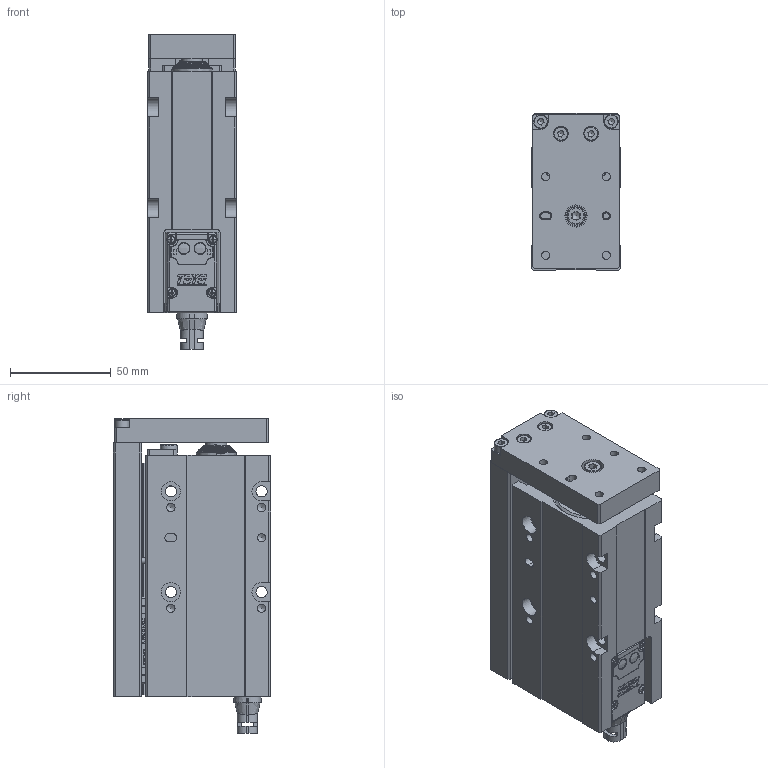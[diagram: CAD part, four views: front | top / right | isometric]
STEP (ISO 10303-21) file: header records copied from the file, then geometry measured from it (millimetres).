
FILE_DESCRIPTION((''),'2;1');
FILE_NAME('C:\Users\RD_15\Desktop\DMH40-50-3D外型.stp','2020-10-20T14:33:46',('RD_15'),(''),'Autodesk Inventor 2013','Autodesk Inventor 2013','');
FILE_SCHEMA(('AUTOMOTIVE_DESIGN { 1 0 10303 214 1 1 1 1 }'));
Length unit declared in the file: millimetre
Products named in the file (53): DMH40-50-3D外型; DMH40-50本體; 組合31; 零件4738; 零件4842; 零件4844; 零件4846; 零件4848; 零件4850; 零件4852; 零件4854; 零件4856; 零件4858; 零件4860; 零件4862; 零件4864; 零件4866; 零件4868; 零件4870; 零件4872; 零件4874; 零件4876; 零件4878; 零件4880; 零件4882; 零件1666; 零件1646; 零件7827; 零件7829; 零件7831; 零件7833; 零件7835; 零件7837; 零件7839; 零件7841; 零件7843; 零件7845; 零件7847; 零件7849; 零件7851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
Assembly tree (54 placements, depth 3):
  DMH40-50-3D外型
    DMH40-50本體
    組合31
      零件4738
      零件4842
      零件4844
      零件4846
      零件4848
      零件4850
      零件4852
      零件4854
      零件4856
      零件4858
      零件4860
      零件4862
      零件4864
      零件4866
      零件4868  x3
      零件4870
      零件4872
      零件4874
      零件4876
      零件4878
      零件4880
      零件4882
      零件1666
      零件1646
    零件7827
    零件7829
    零件7831
    零件7833
    零件7835
    零件7837
    零件7839
    零件7841
    零件7843
    零件7845
    零件7847
    零件7849
    零件7851
    零件7853
    零件7855
    零件7857
    零件7859
    零件7861
    零件7863
    零件7865
    零件7867
    零件7869
    零件7871
    零件7873
    零件7875
    零件7877
Bounding box: 44 x 78 x 156 mm (x, y, z)
Volume: 415036.4 mm3; surface area: 112253.3 mm2
Topology: 53 solids, 56 shells, 3158 faces, 8263 edges, 5348 vertices
Faces by surface type: plane 2074, cylinder 386, bspline 314, cone 288, torus 82, sphere 14
Full cylindrical faces by diameter (mm): 1 x4, 1.783 x8, 1.8 x2, 2 x8, 2.5 x4, 3 x18, 3.242 x8, 3.5 x9, 4 x7, 4.059 x4, 4.134 x12, 4.2 x4, 4.5 x4, 5 x2, 5.1 x2, 5.3 x2, 5.5 x12, 5.54 x2, 5.6 x2, 5.9 x2, 6 x7, 6.2 x2, 7 x4, 7.5 x2, 8 x1, 8.5 x2, 9 x1, 9.5 x4, 10 x2, 10.3 x1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
Entity records: 112254 total; most frequent: CARTESIAN_POINT 36334, ORIENTED_EDGE 15414, DIRECTION 14210, EDGE_CURVE 7707, VECTOR 5608, LINE 5608, VERTEX_POINT 5175, AXIS2_PLACEMENT_3D 4301
